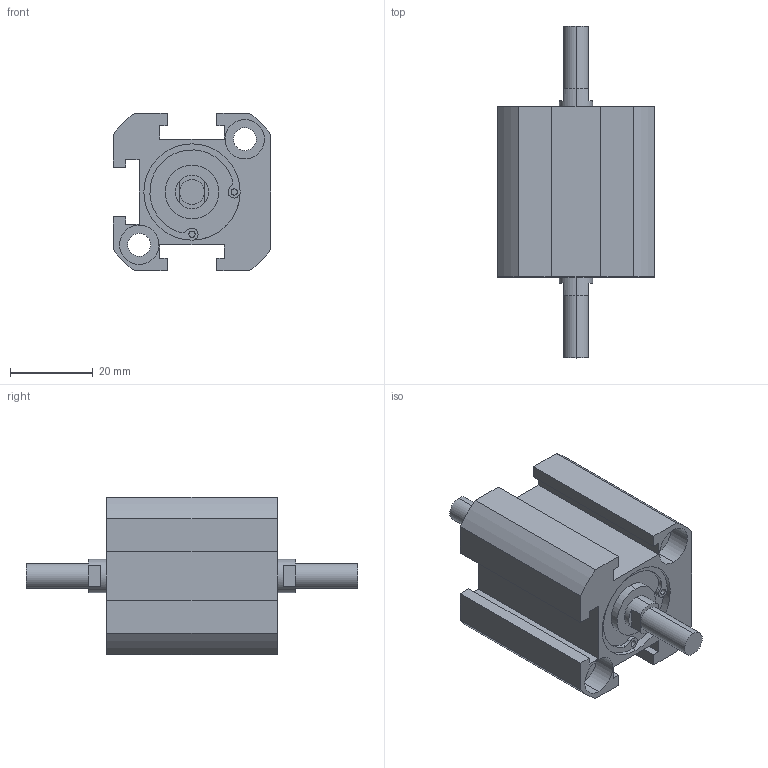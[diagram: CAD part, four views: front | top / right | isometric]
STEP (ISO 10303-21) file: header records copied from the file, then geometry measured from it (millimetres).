
FILE_DESCRIPTION (( 'STEP AP203' ), '1' );
FILE_NAME ('XG#M7-20D-10.STEP', '2016-05-24T02:22:33', ( '' ), ( '' ), 'SwSTEP 2.0', 'SolidWorks 2014', '' );
FILE_SCHEMA (( 'CONFIG_CONTROL_DESIGN' ));
Length unit declared in the file: millimetre
Products named in the file (1): XG#M7-20D-10
Bounding box: 38 x 80 x 38 mm (x, y, z)
Volume: 43536.2 mm3; surface area: 13607.9 mm2
Topology: 1 solids, 1 shells, 120 faces, 302 edges, 196 vertices
Faces by surface type: cylinder 58, plane 58, cone 4
Entity records: 3693 total; most frequent: DIRECTION 670, CARTESIAN_POINT 615, ORIENTED_EDGE 596, EDGE_CURVE 298, AXIS2_PLACEMENT_3D 251, VERTEX_POINT 196, VECTOR 168, LINE 168
